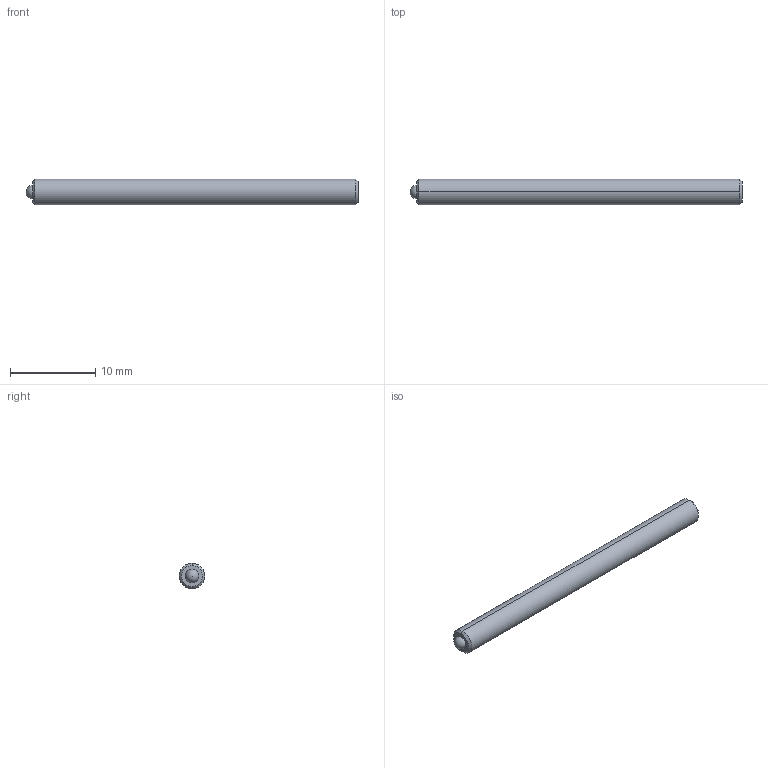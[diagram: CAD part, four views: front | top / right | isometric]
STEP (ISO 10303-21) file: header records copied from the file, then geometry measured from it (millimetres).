
FILE_DESCRIPTION (( 'STEP AP214' ), '1' );
FILE_NAME ('TS3-25-39.STEP', '2013-02-13T16:16:35', ( 'workpc' ), ( 'Microsoft' ), 'SwSTEP 2.0', 'SolidWorks 2013', '' );
FILE_SCHEMA (( 'AUTOMOTIVE_DESIGN' ));
Length unit declared in the file: millimetre
Products named in the file (1): TS3-25-39
Bounding box: 39 x 3 x 3 mm (x, y, z)
Volume: 266.1 mm3; surface area: 393.6 mm2
Topology: 2 solids, 2 shells, 20 faces, 45 edges, 29 vertices
Faces by surface type: plane 10, cylinder 4, cone 4, sphere 2
Entity records: 587 total; most frequent: DIRECTION 96, CARTESIAN_POINT 87, ORIENTED_EDGE 80, EDGE_CURVE 40, AXIS2_PLACEMENT_3D 35, VERTEX_POINT 26, VECTOR 26, LINE 26
